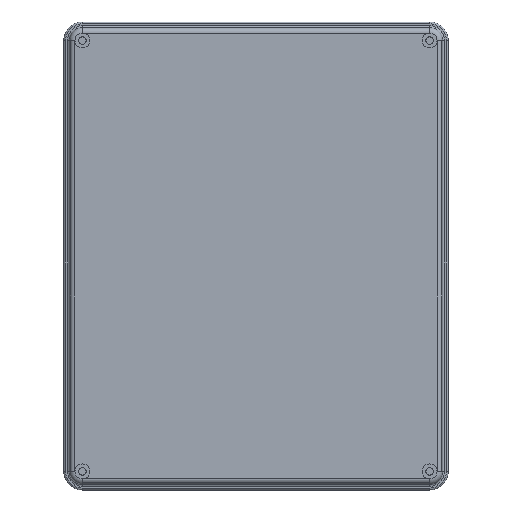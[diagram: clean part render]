
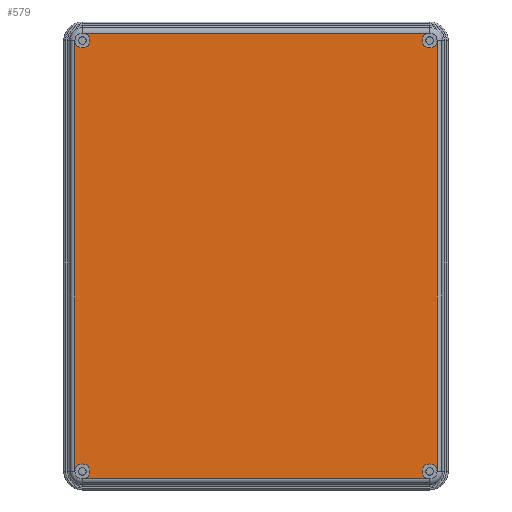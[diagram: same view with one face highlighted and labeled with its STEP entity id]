
A CAD part, top view. The second image highlights one B-rep face of the part: STEP entity #579.
In plain terms, the highlighted planar face has unit normal (0, 0, 1).
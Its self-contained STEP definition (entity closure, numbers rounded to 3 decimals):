
#579=ADVANCED_FACE('',(#1206),#1207,.T.);
#1206=FACE_OUTER_BOUND('',#2003,.T.);
#1207=PLANE('',#2004);
#2003=EDGE_LOOP('',(#3141,#3142,#3143,#3144,#3145,#3146,#3147,#3148,#3149,#3150,#3151,#3152));
#2004=AXIS2_PLACEMENT_3D('',#3153,#3154,#3155);
#3141=ORIENTED_EDGE('',*,*,#4412,.T.);
#3142=ORIENTED_EDGE('',*,*,#4703,.T.);
#3143=ORIENTED_EDGE('',*,*,#4704,.F.);
#3144=ORIENTED_EDGE('',*,*,#4705,.T.);
#3145=ORIENTED_EDGE('',*,*,#4706,.T.);
#3146=ORIENTED_EDGE('',*,*,#4707,.F.);
#3147=ORIENTED_EDGE('',*,*,#4708,.T.);
#3148=ORIENTED_EDGE('',*,*,#4709,.T.);
#3149=ORIENTED_EDGE('',*,*,#4446,.F.);
#3150=ORIENTED_EDGE('',*,*,#4710,.T.);
#3151=ORIENTED_EDGE('',*,*,#4711,.T.);
#3152=ORIENTED_EDGE('',*,*,#4712,.F.);
#3153=CARTESIAN_POINT('',(0.,0.,34.5));
#3154=DIRECTION('',(0.,0.,1.0));
#3155=DIRECTION('',(1.0,0.,0.));
#4412=EDGE_CURVE('',#5211,#5209,#5212,.T.);
#4446=EDGE_CURVE('',#5267,#5269,#5270,.T.);
#4703=EDGE_CURVE('',#5209,#5670,#5671,.T.);
#4704=EDGE_CURVE('',#5672,#5670,#5673,.T.);
#4705=EDGE_CURVE('',#5672,#5674,#5675,.T.);
#4706=EDGE_CURVE('',#5674,#5676,#5677,.T.);
#4707=EDGE_CURVE('',#5678,#5676,#5679,.T.);
#4708=EDGE_CURVE('',#5678,#5680,#5681,.T.);
#4709=EDGE_CURVE('',#5680,#5269,#5682,.T.);
#4710=EDGE_CURVE('',#5267,#5683,#5684,.T.);
#4711=EDGE_CURVE('',#5683,#5418,#5685,.T.);
#4712=EDGE_CURVE('',#5211,#5418,#5686,.T.);
#5209=VERTEX_POINT('',#6277);
#5211=VERTEX_POINT('',#6280);
#5212=CIRCLE('',#6281,4.);
#5267=VERTEX_POINT('',#6350);
#5269=VERTEX_POINT('',#6352);
#5270=LINE('',#6353,#6354);
#5418=VERTEX_POINT('',#6532);
#5670=VERTEX_POINT('',#6854);
#5671=CIRCLE('',#6855,4.);
#5672=VERTEX_POINT('',#6856);
#5673=LINE('',#6857,#6858);
#5674=VERTEX_POINT('',#6859);
#5675=CIRCLE('',#6860,4.);
#5676=VERTEX_POINT('',#6861);
#5677=CIRCLE('',#6862,4.);
#5678=VERTEX_POINT('',#6863);
#5679=LINE('',#6864,#6865);
#5680=VERTEX_POINT('',#6866);
#5681=CIRCLE('',#6867,4.0);
#5682=CIRCLE('',#6868,4.0);
#5683=VERTEX_POINT('',#6869);
#5684=CIRCLE('',#6870,4.);
#5685=CIRCLE('',#6871,4.);
#5686=LINE('',#6872,#6873);
#6277=CARTESIAN_POINT('',(-93.5,112.0,34.5));
#6280=CARTESIAN_POINT('',(-93.5,120.0,34.5));
#6281=AXIS2_PLACEMENT_3D('',#7517,#7518,#7519);
#6350=CARTESIAN_POINT('',(97.5,116.0,34.5));
#6352=CARTESIAN_POINT('',(97.5,-116.0,34.5));
#6353=CARTESIAN_POINT('',(97.5,-58.0,34.5));
#6354=VECTOR('',#7567,10.0);
#6532=CARTESIAN_POINT('',(93.5,120.0,34.5));
#6854=CARTESIAN_POINT('',(-97.5,116.0,34.5));
#6855=AXIS2_PLACEMENT_3D('',#7947,#7948,#7949);
#6856=CARTESIAN_POINT('',(-97.5,-116.0,34.5));
#6857=CARTESIAN_POINT('',(-97.5,58.0,34.5));
#6858=VECTOR('',#7950,10.0);
#6859=CARTESIAN_POINT('',(-93.5,-112.0,34.5));
#6860=AXIS2_PLACEMENT_3D('',#7951,#7952,#7953);
#6861=CARTESIAN_POINT('',(-93.5,-120.0,34.5));
#6862=AXIS2_PLACEMENT_3D('',#7954,#7955,#7956);
#6863=CARTESIAN_POINT('',(93.5,-120.0,34.5));
#6864=CARTESIAN_POINT('',(-46.75,-120.0,34.5));
#6865=VECTOR('',#7957,10.0);
#6866=CARTESIAN_POINT('',(93.5,-112.0,34.5));
#6867=AXIS2_PLACEMENT_3D('',#7958,#7959,#7960);
#6868=AXIS2_PLACEMENT_3D('',#7961,#7962,#7963);
#6869=CARTESIAN_POINT('',(93.5,112.0,34.5));
#6870=AXIS2_PLACEMENT_3D('',#7964,#7965,#7966);
#6871=AXIS2_PLACEMENT_3D('',#7967,#7968,#7969);
#6872=CARTESIAN_POINT('',(46.75,120.0,34.5));
#6873=VECTOR('',#7970,10.0);
#7517=CARTESIAN_POINT('',(-93.5,116.0,34.5));
#7518=DIRECTION('',(0.,0.,-1.0));
#7519=DIRECTION('',(0.,-1.0,0.));
#7567=DIRECTION('',(0.,-1.0,0.));
#7947=CARTESIAN_POINT('',(-93.5,116.0,34.5));
#7948=DIRECTION('',(0.,0.,-1.0));
#7949=DIRECTION('',(0.,-1.0,0.));
#7950=DIRECTION('',(0.,1.0,0.));
#7951=CARTESIAN_POINT('',(-93.5,-116.0,34.5));
#7952=DIRECTION('',(0.,0.,-1.0));
#7953=DIRECTION('',(0.,-1.0,0.));
#7954=CARTESIAN_POINT('',(-93.5,-116.0,34.5));
#7955=DIRECTION('',(0.,0.,-1.0));
#7956=DIRECTION('',(0.,-1.0,0.));
#7957=DIRECTION('',(-1.0,0.,0.));
#7958=CARTESIAN_POINT('',(93.5,-116.0,34.5));
#7959=DIRECTION('',(0.,0.,-1.0));
#7960=DIRECTION('',(0.,-1.0,0.));
#7961=CARTESIAN_POINT('',(93.5,-116.0,34.5));
#7962=DIRECTION('',(0.,0.,-1.0));
#7963=DIRECTION('',(0.,-1.0,0.));
#7964=CARTESIAN_POINT('',(93.5,116.0,34.5));
#7965=DIRECTION('',(0.,0.,-1.0));
#7966=DIRECTION('',(0.,-1.0,0.));
#7967=CARTESIAN_POINT('',(93.5,116.0,34.5));
#7968=DIRECTION('',(0.,0.,-1.0));
#7969=DIRECTION('',(0.,-1.0,0.));
#7970=DIRECTION('',(1.0,0.,0.));
